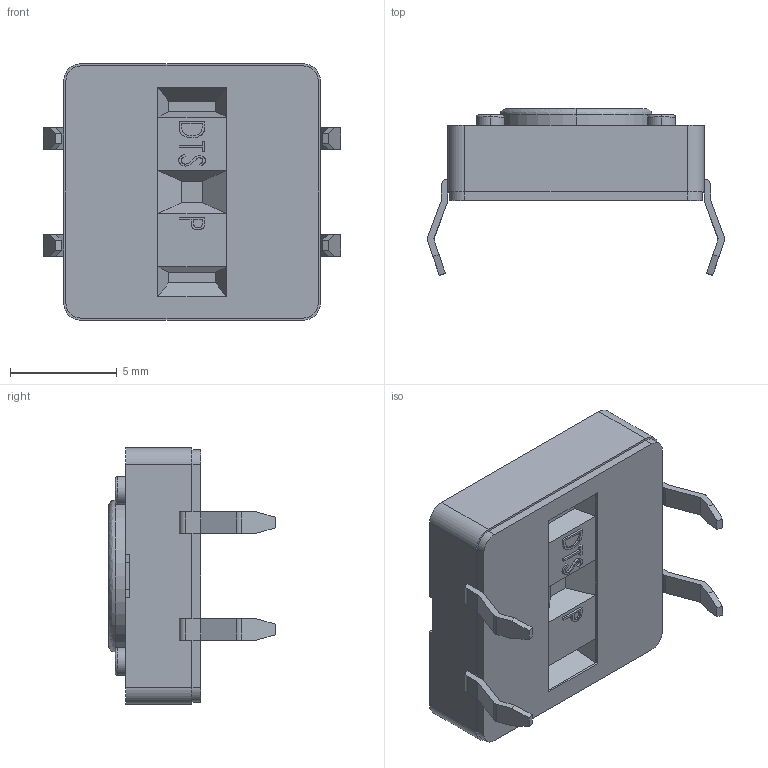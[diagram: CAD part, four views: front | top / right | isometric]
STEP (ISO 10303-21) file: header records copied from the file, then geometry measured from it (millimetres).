
FILE_DESCRIPTION (( 'STEP AP214' ), '1' );
FILE_NAME ('DTS-21.STEP', '2018-10-22T06:47:09', ( '' ), ( '' ), 'SwSTEP 2.0', 'SolidWorks 2017', '' );
FILE_SCHEMA (( 'AUTOMOTIVE_DESIGN' ));
Length unit declared in the file: millimetre
Products named in the file (1): DTS-21
Bounding box: 13.9 x 7.8 x 12 mm (x, y, z)
Volume: 525.6 mm3; surface area: 564 mm2
Topology: 1 solids, 6 shells, 261 faces, 672 edges, 438 vertices
Faces by surface type: plane 167, cylinder 48, bspline 38, cone 8
Entity records: 10492 total; most frequent: CARTESIAN_POINT 3076, ORIENTED_EDGE 1344, DIRECTION 1176, EDGE_CURVE 672, VECTOR 484, LINE 484, VERTEX_POINT 438, AXIS2_PLACEMENT_3D 346
